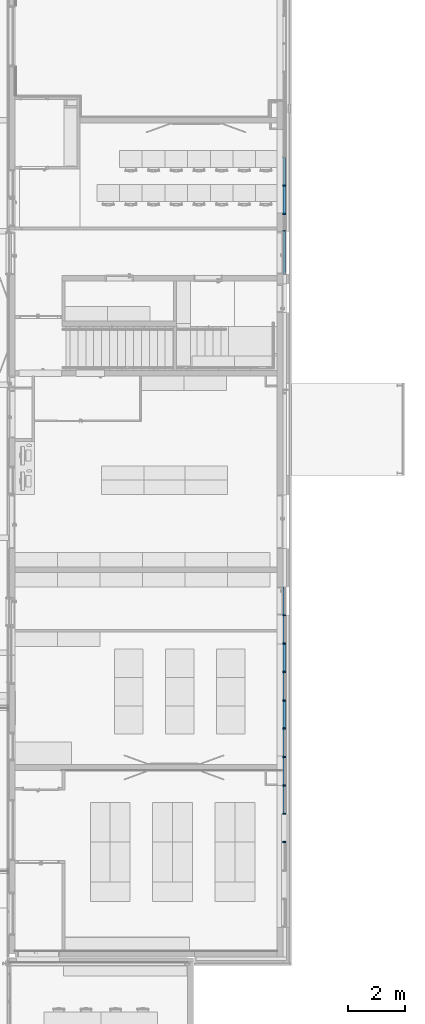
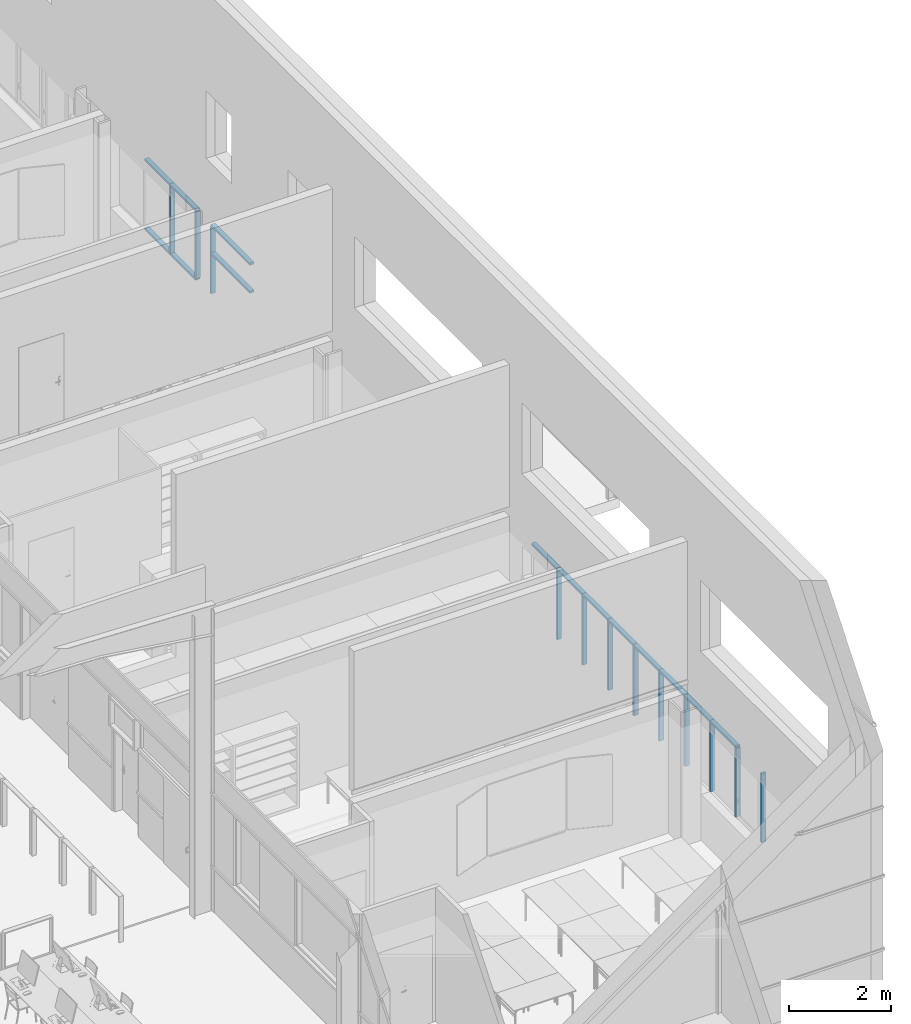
# One storey, part 15 of 137: 26 members, 2 elements without a shape of their own.
"""IFC2X3 building model written with IfcOpenShell, lengths in centimetres."""

from ifc_helpers import new_model, entity, si_unit, converted_unit, derived_unit, direction, frame, frame_2d, origin, origin_2d_with_axis, place, context, subcontext, project, spatial, rectangle, extrude, material, type_object, element, aggregate, save


model = new_model("IFC2X3")

# Units and contexts
model_context = context("Model", 3, precision=0.001, world=origin(), true_north=direction((6.12303176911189e-17, 1.0)))
body_context = subcontext(model_context, "Body", "Model", "MODEL_VIEW")
ifc_project = project(units=[si_unit("LENGTHUNIT", "METRE", prefix="CENTI"), si_unit("AREAUNIT", "SQUARE_METRE"), si_unit("VOLUMEUNIT", "CUBIC_METRE"), converted_unit("PLANEANGLEUNIT", "DEGREE", entity("IfcRatioMeasure", 0.0174532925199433), si_unit("PLANEANGLEUNIT", "RADIAN"), dimensions=[0, 0, 0, 0, 0, 0, 0]), si_unit("MASSUNIT", "GRAM", prefix="KILO"), si_unit("TIMEUNIT", "SECOND"), si_unit("FREQUENCYUNIT", "HERTZ"), si_unit("THERMODYNAMICTEMPERATUREUNIT", "DEGREE_CELSIUS"), derived_unit("THERMALTRANSMITTANCEUNIT", [(si_unit("MASSUNIT", "GRAM", prefix="KILO"), 1), (si_unit("THERMODYNAMICTEMPERATUREUNIT", "KELVIN"), -1), (si_unit("TIMEUNIT", "SECOND"), -3)]), derived_unit("VOLUMETRICFLOWRATEUNIT", [(si_unit("LENGTHUNIT", "METRE"), 3), (si_unit("TIMEUNIT", "SECOND"), -1)]), si_unit("ELECTRICCURRENTUNIT", "AMPERE"), si_unit("ELECTRICVOLTAGEUNIT", "VOLT"), si_unit("POWERUNIT", "WATT"), si_unit("FORCEUNIT", "NEWTON", prefix="KILO"), si_unit("ILLUMINANCEUNIT", "LUX"), si_unit("LUMINOUSFLUXUNIT", "LUMEN"), si_unit("LUMINOUSINTENSITYUNIT", "CANDELA"), derived_unit("USERDEFINED", [(si_unit("MASSUNIT", "GRAM", prefix="KILO"), -1), (si_unit("LENGTHUNIT", "METRE"), -2), (si_unit("TIMEUNIT", "SECOND"), 3), (si_unit("LUMINOUSFLUXUNIT", "LUMEN"), 1)]), derived_unit("LINEARVELOCITYUNIT", [(si_unit("LENGTHUNIT", "METRE"), 1), (si_unit("TIMEUNIT", "SECOND"), -1)]), si_unit("PRESSUREUNIT", "PASCAL"), derived_unit("USERDEFINED", [(si_unit("LENGTHUNIT", "METRE"), -2), (si_unit("MASSUNIT", "GRAM", prefix="KILO"), 1), (si_unit("TIMEUNIT", "SECOND"), -2)])], contexts=[model_context])

# Site, building, storey
site_placement = place(None, frame((8.62739174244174, -249.285249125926, 0.0)))
site = spatial("IfcSite", under=ifc_project, at=site_placement, Name="Default", CompositionType="ELEMENT")
building_placement = place(site_placement, origin())
building = spatial("IfcBuilding", under=site, at=building_placement, CompositionType="ELEMENT")
storey_placement = place(building_placement, origin())
storey = spatial("IfcBuildingStorey", under=building, at=storey_placement, Name="RDC", CompositionType="ELEMENT", Elevation=-8.82465566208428e-11)

# Curtain wall, members
curtain_wall_type = type_object("IfcCurtainWallType", Name="Mur-rideau:Simple panneau", PredefinedType="NOTDEFINED")
curtain_wall_1_placement = place(storey_placement, origin())
curtain_wall_1 = element("IfcCurtainWall", 1, at=curtain_wall_1_placement, inside=storey, type_object=curtain_wall_type, Name="Mur-rideau:Simple panneau", ObjectType="Mur-rideau:Simple panneau")
ifc_material = material(Name="Plastique, blanc opaque")
member_1_placement = place(curtain_wall_1_placement, origin())
member_1 = element("IfcMember", 2, at=member_1_placement, material=ifc_material, Name="Mur-rideau:Simple panneau", ObjectType="Mur-rideau:Simple panneau", context=body_context, shape_type="SweptSolid", body=[
    extrude(rectangle(XDim=5.0, YDim=9.99999999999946, at=frame_2d((2.70894418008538e-14, 0.0), x_axis=(1.0, 0.0))), frame((4003.90482781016, 5354.9802081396, 277.500000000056), z_axis=(0.0, 1.0, 0.0), x_axis=(0.0, 0.0, -1.0)), (0.0, 0.0, 1.0), 99.9999999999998),
])
member_2_placement = place(curtain_wall_1_placement, origin())
member_2 = element("IfcMember", 3, at=member_2_placement, material=ifc_material, Name="Mur-rideau:Simple panneau", ObjectType="Mur-rideau:Simple panneau", context=body_context, shape_type="SweptSolid", body=[
    extrude(rectangle(XDim=9.99999999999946, YDim=5.0000000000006, at=frame_2d((8.66418048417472e-13, 0.0), x_axis=(1.0, 0.0))), frame((4003.90482781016, 5354.9802081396, 115.0), z_axis=(0.0, 0.0, 1.0), x_axis=(-1.0, 0.0, 0.0)), (0.0, 0.0, 1.0), 160.0),
])
member_3_placement = place(curtain_wall_1_placement, origin())
member_3 = element("IfcMember", 4, at=member_3_placement, material=ifc_material, Name="Mur-rideau:Simple panneau", ObjectType="Mur-rideau:Simple panneau", context=body_context, shape_type="SweptSolid", body=[
    extrude(rectangle(XDim=5.0, YDim=9.99999999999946, at=frame_2d((2.70894418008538e-14, 0.0), x_axis=(1.0, 0.0))), frame((4003.90482781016, 5254.9802081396, 277.500000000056), z_axis=(0.0, 1.0, 0.0), x_axis=(0.0, 0.0, -1.0)), (0.0, 0.0, 1.0), 99.9999999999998),
])
member_4_placement = place(curtain_wall_1_placement, origin())
member_4 = element("IfcMember", 5, at=member_4_placement, material=ifc_material, Name="Mur-rideau:Simple panneau", ObjectType="Mur-rideau:Simple panneau", context=body_context, shape_type="SweptSolid", body=[
    extrude(rectangle(XDim=9.99999999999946, YDim=5.0000000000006, at=frame_2d((8.66418048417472e-13, 0.0), x_axis=(1.0, 0.0))), frame((4003.90482781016, 5254.9802081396, 115.0), z_axis=(0.0, 0.0, 1.0), x_axis=(-1.0, 0.0, 0.0)), (0.0, 0.0, 1.0), 160.0),
])
member_5_placement = place(curtain_wall_1_placement, origin())
member_5 = element("IfcMember", 6, at=member_5_placement, material=ifc_material, Name="Mur-rideau:Simple panneau", ObjectType="Mur-rideau:Simple panneau", context=body_context, shape_type="SweptSolid", body=[
    extrude(rectangle(XDim=5.0, YDim=9.99999999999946, at=origin_2d_with_axis()), frame((4003.90482781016, 5354.9802081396, 112.500000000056), z_axis=(0.0, -1.0, 0.0), x_axis=(0.0, 0.0, -1.0)), (0.0, 0.0, 1.0), 99.9999999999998),
])
member_6_placement = place(curtain_wall_1_placement, origin())
member_6 = element("IfcMember", 7, at=member_6_placement, material=ifc_material, Name="Mur-rideau:Simple panneau", ObjectType="Mur-rideau:Simple panneau", context=body_context, shape_type="SweptSolid", body=[
    extrude(rectangle(XDim=5.0, YDim=9.99999999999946, at=origin_2d_with_axis()), frame((4003.90482781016, 5454.9802081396, 112.500000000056), z_axis=(0.0, -1.0, 0.0), x_axis=(0.0, 0.0, -1.0)), (0.0, 0.0, 1.0), 99.9999999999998),
])
member_7_placement = place(curtain_wall_1_placement, origin())
member_7 = element("IfcMember", 8, at=member_7_placement, material=ifc_material, Name="Mur-rideau:Simple panneau", ObjectType="Mur-rideau:Simple panneau", context=body_context, shape_type="SweptSolid", body=[
    extrude(rectangle(XDim=9.99999999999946, YDim=5.0000000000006, at=origin_2d_with_axis()), frame((4003.90482781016, 5195.4802081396, 115.0), z_axis=(0.0, 0.0, 1.0), x_axis=(-1.0, 0.0, 0.0)), (0.0, 0.0, 1.0), 160.0),
])
member_8_placement = place(curtain_wall_1_placement, origin())
member_8 = element("IfcMember", 9, at=member_8_placement, material=ifc_material, Name="Mur-rideau:Simple panneau", ObjectType="Mur-rideau:Simple panneau", context=body_context, shape_type="SweptSolid", body=[
    extrude(rectangle(XDim=5.0, YDim=9.99999999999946, at=frame_2d((2.70894418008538e-14, 0.0), x_axis=(1.0, 0.0))), frame((4003.90482781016, 5041.98020813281, 277.500000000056), z_axis=(0.0, 1.0, 0.0), x_axis=(0.0, 0.0, -1.0)), (0.0, 0.0, 1.0), 153.500000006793),
])
member_9_placement = place(curtain_wall_1_placement, origin())
member_9 = element("IfcMember", 10, at=member_9_placement, material=ifc_material, Name="Mur-rideau:Simple panneau", ObjectType="Mur-rideau:Simple panneau", context=body_context, shape_type="SweptSolid", body=[
    extrude(rectangle(XDim=5.0, YDim=9.99999999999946, at=frame_2d((2.70894418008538e-14, 0.0), x_axis=(1.0, 0.0))), frame((4003.90482781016, 5197.9802081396, 210.500000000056), z_axis=(0.0, -1.0, 0.0), x_axis=(0.0, 0.0, -1.0)), (0.0, 0.0, 1.0), 156.000000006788),
])
aggregate(curtain_wall_1, [member_1, member_2, member_3, member_4, member_5, member_6, member_7, member_8, member_9])

curtain_wall_2_placement = place(storey_placement, origin())
curtain_wall_2 = element("IfcCurtainWall", 11, at=curtain_wall_2_placement, inside=storey, type_object=curtain_wall_type, Name="Mur-rideau:Simple panneau", ObjectType="Mur-rideau:Simple panneau")
member_10_placement = place(curtain_wall_2_placement, origin())
member_10 = element("IfcMember", 12, at=member_10_placement, material=ifc_material, Name="Mur-rideau:Simple panneau", ObjectType="Mur-rideau:Simple panneau", context=body_context, shape_type="SweptSolid", body=[
    extrude(rectangle(XDim=5.0, YDim=9.99999999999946, at=frame_2d((2.70894418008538e-14, 0.0), x_axis=(1.0, 0.0))), frame((4003.90482781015, 3739.68519336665, 277.500000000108), z_axis=(0.0, 1.0, 0.0), x_axis=(0.0, 0.0, -1.0)), (0.0, 0.0, 1.0), 99.9999999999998),
])
member_11_placement = place(curtain_wall_2_placement, origin())
member_11 = element("IfcMember", 13, at=member_11_placement, material=ifc_material, Name="Mur-rideau:Simple panneau", ObjectType="Mur-rideau:Simple panneau", context=body_context, shape_type="SweptSolid", body=[
    extrude(rectangle(XDim=5.0, YDim=9.99999999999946, at=frame_2d((2.70894418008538e-14, 0.0), x_axis=(1.0, 0.0))), frame((4003.90482781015, 3639.68519336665, 277.500000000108), z_axis=(0.0, 1.0, 0.0), x_axis=(0.0, 0.0, -1.0)), (0.0, 0.0, 1.0), 99.9999999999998),
])
member_12_placement = place(curtain_wall_2_placement, origin())
member_12 = element("IfcMember", 14, at=member_12_placement, material=ifc_material, Name="Mur-rideau:Simple panneau", ObjectType="Mur-rideau:Simple panneau", context=body_context, shape_type="SweptSolid", body=[
    extrude(rectangle(XDim=5.0, YDim=9.99999999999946, at=frame_2d((2.70894418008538e-14, 0.0), x_axis=(1.0, 0.0))), frame((4003.90482781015, 3539.68519336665, 277.500000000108), z_axis=(0.0, 1.0, 0.0), x_axis=(0.0, 0.0, -1.0)), (0.0, 0.0, 1.0), 99.9999999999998),
])
member_13_placement = place(curtain_wall_2_placement, origin())
member_13 = element("IfcMember", 15, at=member_13_placement, material=ifc_material, Name="Mur-rideau:Simple panneau", ObjectType="Mur-rideau:Simple panneau", context=body_context, shape_type="SweptSolid", body=[
    extrude(rectangle(XDim=5.0, YDim=9.99999999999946, at=frame_2d((2.70894418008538e-14, 0.0), x_axis=(1.0, 0.0))), frame((4003.90482781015, 3439.68519336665, 277.500000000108), z_axis=(0.0, 1.0, 0.0), x_axis=(0.0, 0.0, -1.0)), (0.0, 0.0, 1.0), 99.9999999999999),
])
member_14_placement = place(curtain_wall_2_placement, origin())
member_14 = element("IfcMember", 16, at=member_14_placement, material=ifc_material, Name="Mur-rideau:Simple panneau", ObjectType="Mur-rideau:Simple panneau", context=body_context, shape_type="SweptSolid", body=[
    extrude(rectangle(XDim=5.0, YDim=9.99999999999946, at=frame_2d((2.70894418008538e-14, 0.0), x_axis=(1.0, 0.0))), frame((4003.90482781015, 3339.68519336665, 277.500000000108), z_axis=(0.0, 1.0, 0.0), x_axis=(0.0, 0.0, -1.0)), (0.0, 0.0, 1.0), 99.9999999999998),
])
member_15_placement = place(curtain_wall_2_placement, origin())
member_15 = element("IfcMember", 17, at=member_15_placement, material=ifc_material, Name="Mur-rideau:Simple panneau", ObjectType="Mur-rideau:Simple panneau", context=body_context, shape_type="SweptSolid", body=[
    extrude(rectangle(XDim=5.0, YDim=9.99999999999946, at=frame_2d((2.70894418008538e-14, 0.0), x_axis=(1.0, 0.0))), frame((4003.90482781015, 3239.68519336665, 277.500000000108), z_axis=(0.0, 1.0, 0.0), x_axis=(0.0, 0.0, -1.0)), (0.0, 0.0, 1.0), 99.9999999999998),
])
member_16_placement = place(curtain_wall_2_placement, origin())
member_16 = element("IfcMember", 18, at=member_16_placement, material=ifc_material, Name="Mur-rideau:Simple panneau", ObjectType="Mur-rideau:Simple panneau", context=body_context, shape_type="SweptSolid", body=[
    extrude(rectangle(XDim=5.0, YDim=9.99999999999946, at=frame_2d((2.70894418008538e-14, 0.0), x_axis=(1.0, 0.0))), frame((4003.90482781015, 3139.68519336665, 277.500000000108), z_axis=(0.0, 1.0, 0.0), x_axis=(0.0, 0.0, -1.0)), (0.0, 0.0, 1.0), 99.9999999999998),
])
member_17_placement = place(curtain_wall_2_placement, origin())
member_17 = element("IfcMember", 19, at=member_17_placement, material=ifc_material, Name="Mur-rideau:Simple panneau", ObjectType="Mur-rideau:Simple panneau", context=body_context, shape_type="SweptSolid", body=[
    extrude(rectangle(XDim=9.99999999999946, YDim=4.99999999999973, at=origin_2d_with_axis()), frame((4003.90482781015, 3739.68519336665, 110.0), z_axis=(0.0, 0.0, 1.0), x_axis=(-1.0, 0.0, 0.0)), (0.0, 0.0, 1.0), 165.000000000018),
])
member_18_placement = place(curtain_wall_2_placement, origin())
member_18 = element("IfcMember", 20, at=member_18_placement, material=ifc_material, Name="Mur-rideau:Simple panneau", ObjectType="Mur-rideau:Simple panneau", context=body_context, shape_type="SweptSolid", body=[
    extrude(rectangle(XDim=9.99999999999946, YDim=4.99999999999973, at=origin_2d_with_axis()), frame((4003.90482781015, 3639.68519336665, 110.0), z_axis=(0.0, 0.0, 1.0), x_axis=(-1.0, 0.0, 0.0)), (0.0, 0.0, 1.0), 165.000000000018),
])
member_19_placement = place(curtain_wall_2_placement, origin())
member_19 = element("IfcMember", 21, at=member_19_placement, material=ifc_material, Name="Mur-rideau:Simple panneau", ObjectType="Mur-rideau:Simple panneau", context=body_context, shape_type="SweptSolid", body=[
    extrude(rectangle(XDim=9.99999999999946, YDim=4.99999999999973, at=origin_2d_with_axis()), frame((4003.90482781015, 3539.68519336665, 110.0), z_axis=(0.0, 0.0, 1.0), x_axis=(-1.0, 0.0, 0.0)), (0.0, 0.0, 1.0), 165.000000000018),
])
member_20_placement = place(curtain_wall_2_placement, origin())
member_20 = element("IfcMember", 22, at=member_20_placement, material=ifc_material, Name="Mur-rideau:Simple panneau", ObjectType="Mur-rideau:Simple panneau", context=body_context, shape_type="SweptSolid", body=[
    extrude(rectangle(XDim=9.99999999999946, YDim=4.99999999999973, at=frame_2d((8.66418048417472e-13, 0.0), x_axis=(1.0, 0.0))), frame((4003.90482781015, 3439.68519336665, 110.0), z_axis=(0.0, 0.0, 1.0), x_axis=(-1.0, 0.0, 0.0)), (0.0, 0.0, 1.0), 165.000000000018),
])
member_21_placement = place(curtain_wall_2_placement, origin())
member_21 = element("IfcMember", 23, at=member_21_placement, material=ifc_material, Name="Mur-rideau:Simple panneau", ObjectType="Mur-rideau:Simple panneau", context=body_context, shape_type="SweptSolid", body=[
    extrude(rectangle(XDim=9.99999999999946, YDim=4.99999999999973, at=frame_2d((8.66418048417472e-13, 0.0), x_axis=(1.0, 0.0))), frame((4003.90482781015, 3339.68519336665, 110.0), z_axis=(0.0, 0.0, 1.0), x_axis=(-1.0, 0.0, 0.0)), (0.0, 0.0, 1.0), 165.000000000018),
])
member_22_placement = place(curtain_wall_2_placement, origin())
member_22 = element("IfcMember", 24, at=member_22_placement, material=ifc_material, Name="Mur-rideau:Simple panneau", ObjectType="Mur-rideau:Simple panneau", context=body_context, shape_type="SweptSolid", body=[
    extrude(rectangle(XDim=9.99999999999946, YDim=4.99999999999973, at=frame_2d((8.66418048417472e-13, 0.0), x_axis=(1.0, 0.0))), frame((4003.90482781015, 3239.68519336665, 110.0), z_axis=(0.0, 0.0, 1.0), x_axis=(-1.0, 0.0, 0.0)), (0.0, 0.0, 1.0), 165.000000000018),
])
member_23_placement = place(curtain_wall_2_placement, origin())
member_23 = element("IfcMember", 25, at=member_23_placement, material=ifc_material, Name="Mur-rideau:Simple panneau", ObjectType="Mur-rideau:Simple panneau", context=body_context, shape_type="SweptSolid", body=[
    extrude(rectangle(XDim=9.99999999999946, YDim=4.99999999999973, at=frame_2d((8.66418048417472e-13, 0.0), x_axis=(1.0, 0.0))), frame((4003.90482781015, 3139.68519336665, 110.0), z_axis=(0.0, 0.0, 1.0), x_axis=(-1.0, 0.0, 0.0)), (0.0, 0.0, 1.0), 165.000000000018),
])
member_24_placement = place(curtain_wall_2_placement, origin())
member_24 = element("IfcMember", 26, at=member_24_placement, material=ifc_material, Name="Mur-rideau:Simple panneau", ObjectType="Mur-rideau:Simple panneau", context=body_context, shape_type="SweptSolid", body=[
    extrude(rectangle(XDim=9.99999999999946, YDim=4.99999999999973, at=frame_2d((8.66418048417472e-13, 0.0), x_axis=(1.0, 0.0))), frame((4003.90482781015, 3039.68519336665, 110.0), z_axis=(0.0, 0.0, 1.0), x_axis=(-1.0, 0.0, 0.0)), (0.0, 0.0, 1.0), 165.000000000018),
])
member_25_placement = place(curtain_wall_2_placement, origin())
member_25 = element("IfcMember", 27, at=member_25_placement, material=ifc_material, Name="Mur-rideau:Simple panneau", ObjectType="Mur-rideau:Simple panneau", context=body_context, shape_type="SweptSolid", body=[
    extrude(rectangle(XDim=5.0, YDim=9.99999999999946, at=frame_2d((2.70894418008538e-14, 0.0), x_axis=(1.0, 0.0))), frame((4003.90482781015, 3839.68519336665, 277.500000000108), z_axis=(0.0, 1.0, 0.0), x_axis=(0.0, 0.0, -1.0)), (0.0, 0.0, 1.0), 99.4999999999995),
])
member_26_placement = place(curtain_wall_2_placement, origin())
member_26 = element("IfcMember", 28, at=member_26_placement, material=ifc_material, Name="Mur-rideau:Simple panneau", ObjectType="Mur-rideau:Simple panneau", context=body_context, shape_type="SweptSolid", body=[
    extrude(rectangle(XDim=9.99999999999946, YDim=4.99999999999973, at=frame_2d((0.0, -4.33209024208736e-13), x_axis=(1.0, 0.0))), frame((4003.90482781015, 3839.68519336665, 110.0), z_axis=(0.0, 0.0, 1.0), x_axis=(-1.0, 0.0, 0.0)), (0.0, 0.0, 1.0), 165.000000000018),
])
aggregate(curtain_wall_2, [member_10, member_11, member_12, member_13, member_14, member_15, member_16, member_17, member_18, member_19, member_20, member_21, member_22, member_23, member_24, member_25, member_26])

save(model, "model.ifc")
